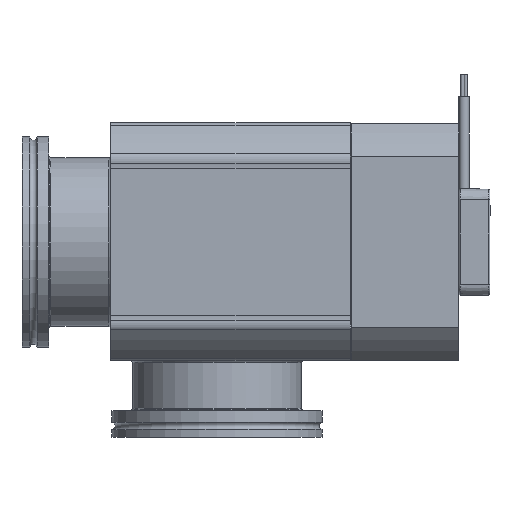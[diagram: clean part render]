
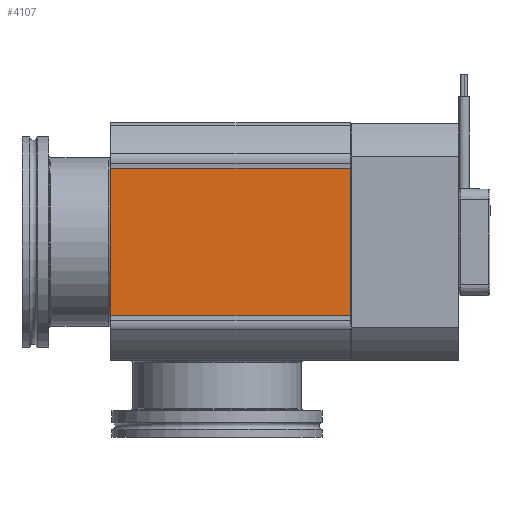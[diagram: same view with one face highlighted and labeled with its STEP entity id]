
A CAD part, top view. The second image highlights one B-rep face of the part: STEP entity #4107.
In plain terms, the highlighted planar face has unit normal (0, 0, 1) as drawn and (1, 0, 0) by its records, which use the part's own axes.
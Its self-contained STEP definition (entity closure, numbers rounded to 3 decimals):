
#2155=LINE('',#16045,#2773);
#2156=LINE('',#16090,#2774);
#2159=LINE('',#16097,#2777);
#2179=LINE('',#16165,#2797);
#2773=VECTOR('',#12840,1.);
#2774=VECTOR('',#12893,1.);
#2777=VECTOR('',#12900,1.);
#2797=VECTOR('',#12982,1.);
#3113=FACE_OUTER_BOUND('',#5294,.T.);
#3497=PLANE('',#10645);
#4107=ADVANCED_FACE('',(#3113),#3497,.F.);
#5294=EDGE_LOOP('',(#7400,#7401,#7402,#7403));
#7400=ORIENTED_EDGE('',*,*,#9377,.F.);
#7401=ORIENTED_EDGE('',*,*,#9343,.T.);
#7402=ORIENTED_EDGE('',*,*,#9321,.F.);
#7403=ORIENTED_EDGE('',*,*,#9339,.T.);
#8263=VERTEX_POINT('',#16044);
#8264=VERTEX_POINT('',#16046);
#8280=VERTEX_POINT('',#16088);
#8283=VERTEX_POINT('',#16095);
#9321=EDGE_CURVE('',#8263,#8264,#2155,.T.);
#9339=EDGE_CURVE('',#8263,#8280,#2156,.T.);
#9343=EDGE_CURVE('',#8283,#8264,#2159,.T.);
#9377=EDGE_CURVE('',#8283,#8280,#2179,.T.);
#10645=AXIS2_PLACEMENT_3D('',#16166,#12983,#12984);
#12840=DIRECTION('',(0.,0.,-1.));
#12893=DIRECTION('',(0.,-1.,0.));
#12900=DIRECTION('',(0.,1.,0.));
#12982=DIRECTION('',(0.,0.,1.));
#12983=DIRECTION('',(-1.,0.,0.));
#12984=DIRECTION('',(0.,0.,1.));
#16044=CARTESIAN_POINT('',(53.5,148.,33.11));
#16045=CARTESIAN_POINT('',(53.5,148.,34.742));
#16046=CARTESIAN_POINT('',(53.5,148.,-33.11));
#16088=CARTESIAN_POINT('',(53.5,40.,33.11));
#16090=CARTESIAN_POINT('',(53.5,0.,33.11));
#16095=CARTESIAN_POINT('',(53.5,40.,-33.11));
#16097=CARTESIAN_POINT('',(53.5,157.,-33.11));
#16165=CARTESIAN_POINT('',(53.5,40.,34.742));
#16166=CARTESIAN_POINT('',(53.5,157.,34.742));
